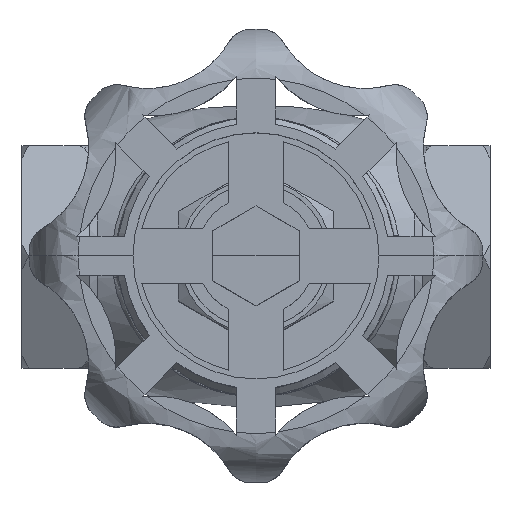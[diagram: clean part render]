
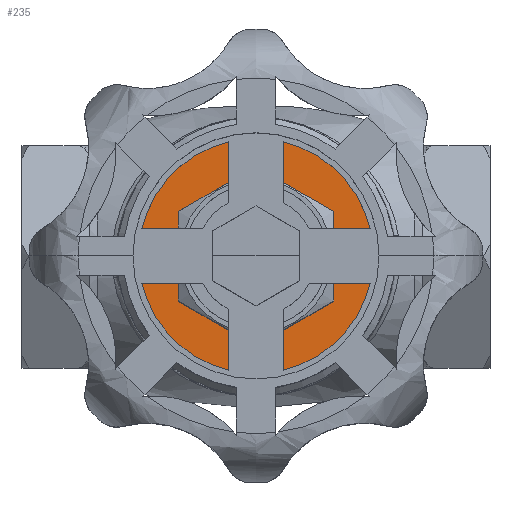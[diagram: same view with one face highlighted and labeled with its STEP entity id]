
A CAD part, top view. The second image highlights one B-rep face of the part: STEP entity #235.
In plain terms, the highlighted planar face has unit normal (0, 0, 1).
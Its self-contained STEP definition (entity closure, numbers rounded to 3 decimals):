
#235=ADVANCED_FACE('',(#2249,#2250),#2248,.T.);
#2248=PLANE('',#4503);
#2249=FACE_OUTER_BOUND('',#4504,.T.);
#2250=FACE_BOUND('',#4505,.T.);
#4500=CARTESIAN_POINT('',(-22.732,-36.344,33.007));
#4501=DIRECTION('',(0.,0.,1.));
#4502=DIRECTION('',(1.,0.,0.));
#4503=AXIS2_PLACEMENT_3D('',#4500,#4501,#4502);
#4504=EDGE_LOOP('',(#6498,#6499));
#4505=EDGE_LOOP('',(#6500,#6501,#6502,#6503,#6504,#6505,#6506,#6507,#6508,#6509,#6510,#6511));
#6498=ORIENTED_EDGE('',*,*,#7485,.F.);
#6499=ORIENTED_EDGE('',*,*,#7486,.F.);
#6500=ORIENTED_EDGE('',*,*,#7007,.T.);
#6501=ORIENTED_EDGE('',*,*,#7037,.T.);
#6502=ORIENTED_EDGE('',*,*,#7001,.T.);
#6503=ORIENTED_EDGE('',*,*,#7033,.T.);
#6504=ORIENTED_EDGE('',*,*,#7479,.T.);
#6505=ORIENTED_EDGE('',*,*,#7028,.T.);
#6506=ORIENTED_EDGE('',*,*,#7020,.T.);
#6507=ORIENTED_EDGE('',*,*,#7024,.T.);
#6508=ORIENTED_EDGE('',*,*,#7016,.T.);
#6509=ORIENTED_EDGE('',*,*,#7103,.T.);
#6510=ORIENTED_EDGE('',*,*,#7009,.T.);
#6511=ORIENTED_EDGE('',*,*,#7104,.T.);
#7001=EDGE_CURVE('',#8438,#8439,#8440,.T.);
#7007=EDGE_CURVE('',#8481,#8474,#8482,.T.);
#7009=EDGE_CURVE('',#8494,#8495,#8496,.T.);
#7016=EDGE_CURVE('',#8542,#8543,#8544,.T.);
#7020=EDGE_CURVE('',#8570,#8571,#8572,.T.);
#7024=EDGE_CURVE('',#8571,#8542,#8598,.T.);
#7028=EDGE_CURVE('',#8624,#8570,#8625,.T.);
#7033=EDGE_CURVE('',#8439,#8658,#8659,.T.);
#7037=EDGE_CURVE('',#8474,#8438,#8685,.T.);
#7103=EDGE_CURVE('',#8543,#8494,#9131,.T.);
#7104=EDGE_CURVE('',#8495,#8481,#9137,.T.);
#7479=EDGE_CURVE('',#8658,#8624,#11612,.T.);
#7485=EDGE_CURVE('',#11650,#11651,#11652,.T.);
#7486=EDGE_CURVE('',#11651,#11650,#11658,.T.);
#8438=VERTEX_POINT('',#12851);
#8439=VERTEX_POINT('',#12852);
#8440=CIRCLE('',#12856,12.424);
#8474=VERTEX_POINT('',#12875);
#8481=VERTEX_POINT('',#12879);
#8482=CIRCLE('',#12883,12.424);
#8494=VERTEX_POINT('',#12887);
#8495=VERTEX_POINT('',#12888);
#8496=CIRCLE('',#12892,12.424);
#8542=VERTEX_POINT('',#12919);
#8543=VERTEX_POINT('',#12920);
#8544=CIRCLE('',#12924,12.424);
#8570=VERTEX_POINT('',#12937);
#8571=VERTEX_POINT('',#12938);
#8572=CIRCLE('',#12942,12.424);
#8598=LINE('',#12955,#12956);
#8624=VERTEX_POINT('',#12973);
#8625=LINE('',#12974,#12975);
#8658=VERTEX_POINT('',#12996);
#8659=LINE('',#12997,#12998);
#8685=LINE('',#13014,#13015);
#9131=LINE('',#13403,#13404);
#9137=LINE('',#13406,#13407);
#11612=CIRCLE('',#15771,12.424);
#11650=VERTEX_POINT('',#15791);
#11651=VERTEX_POINT('',#15792);
#11652=CIRCLE('',#15796,17.486);
#11658=CIRCLE('',#15800,17.486);
#12851=CARTESIAN_POINT('',(10.736,6.253,33.007));
#12852=CARTESIAN_POINT('',(10.783,6.171,33.007));
#12853=CARTESIAN_POINT('',(0.,0.,33.007));
#12854=DIRECTION('',(0.,0.,-1.));
#12855=DIRECTION('',(1.,0.,0.));
#12856=AXIS2_PLACEMENT_3D('',#12853,#12854,#12855);
#12875=CARTESIAN_POINT('',(0.047,12.424,33.007));
#12879=CARTESIAN_POINT('',(-0.047,12.424,33.007));
#12880=CARTESIAN_POINT('',(0.,0.,33.007));
#12881=DIRECTION('',(0.,0.,-1.));
#12882=DIRECTION('',(1.,0.,0.));
#12883=AXIS2_PLACEMENT_3D('',#12880,#12881,#12882);
#12887=CARTESIAN_POINT('',(-10.783,6.171,33.007));
#12888=CARTESIAN_POINT('',(-10.736,6.253,33.007));
#12889=CARTESIAN_POINT('',(0.,0.,33.007));
#12890=DIRECTION('',(0.,0.,-1.));
#12891=DIRECTION('',(1.,0.,0.));
#12892=AXIS2_PLACEMENT_3D('',#12889,#12890,#12891);
#12919=CARTESIAN_POINT('',(-10.736,-6.253,33.007));
#12920=CARTESIAN_POINT('',(-10.783,-6.171,33.007));
#12921=CARTESIAN_POINT('',(0.,0.,33.007));
#12922=DIRECTION('',(0.,0.,-1.));
#12923=DIRECTION('',(1.,0.,0.));
#12924=AXIS2_PLACEMENT_3D('',#12921,#12922,#12923);
#12937=CARTESIAN_POINT('',(0.047,-12.424,33.007));
#12938=CARTESIAN_POINT('',(-0.047,-12.424,33.007));
#12939=CARTESIAN_POINT('',(0.,0.,33.007));
#12940=DIRECTION('',(0.,0.,-1.));
#12941=DIRECTION('',(1.,0.,0.));
#12942=AXIS2_PLACEMENT_3D('',#12939,#12940,#12941);
#12955=CARTESIAN_POINT('',(-0.047,-12.424,33.007));
#12956=VECTOR('',#12957,12.342);
#12957=DIRECTION('',(-0.866,0.5,0.));
#12973=CARTESIAN_POINT('',(10.736,-6.253,33.007));
#12974=CARTESIAN_POINT('',(10.736,-6.253,33.007));
#12975=VECTOR('',#12976,12.342);
#12976=DIRECTION('',(-0.866,-0.5,0.));
#12996=CARTESIAN_POINT('',(10.783,-6.171,33.007));
#12997=CARTESIAN_POINT('',(10.783,6.171,33.007));
#12998=VECTOR('',#12999,12.342);
#12999=DIRECTION('',(0.,-1.,0.));
#13014=CARTESIAN_POINT('',(0.047,12.424,33.007));
#13015=VECTOR('',#13016,12.342);
#13016=DIRECTION('',(0.866,-0.5,0.));
#13403=CARTESIAN_POINT('',(-10.783,-6.171,33.007));
#13404=VECTOR('',#13405,12.342);
#13405=DIRECTION('',(0.,1.,0.));
#13406=CARTESIAN_POINT('',(-10.736,6.253,33.007));
#13407=VECTOR('',#13408,12.342);
#13408=DIRECTION('',(0.866,0.5,0.));
#15768=CARTESIAN_POINT('',(0.,0.,33.007));
#15769=DIRECTION('',(0.,0.,-1.));
#15770=DIRECTION('',(1.,0.,0.));
#15771=AXIS2_PLACEMENT_3D('',#15768,#15769,#15770);
#15791=CARTESIAN_POINT('',(17.486,0.,33.007));
#15792=CARTESIAN_POINT('',(-17.486,0.,33.007));
#15793=CARTESIAN_POINT('',(0.,0.,33.007));
#15794=DIRECTION('',(0.,0.,-1.));
#15795=DIRECTION('',(-1.,0.,0.));
#15796=AXIS2_PLACEMENT_3D('',#15793,#15794,#15795);
#15797=CARTESIAN_POINT('',(0.,0.,33.007));
#15798=DIRECTION('',(0.,0.,-1.));
#15799=DIRECTION('',(-1.,0.,0.));
#15800=AXIS2_PLACEMENT_3D('',#15797,#15798,#15799);
